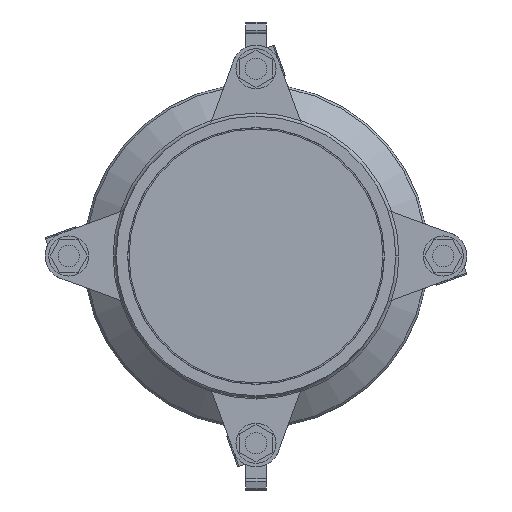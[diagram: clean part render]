
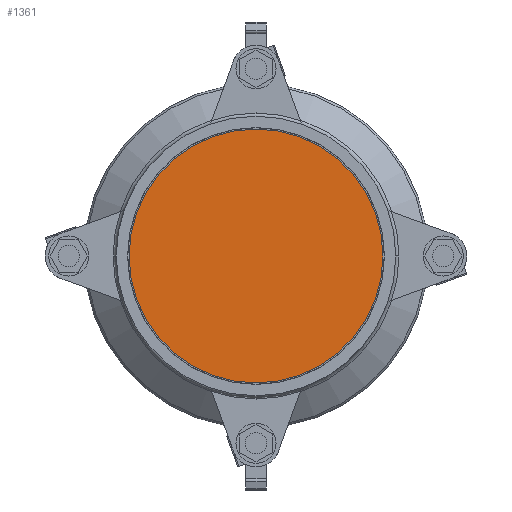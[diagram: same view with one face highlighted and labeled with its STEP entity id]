
A CAD part, left-side view. The second image highlights one B-rep face of the part: STEP entity #1361.
In plain terms, the highlighted planar face has unit normal (-1, 0, 0).
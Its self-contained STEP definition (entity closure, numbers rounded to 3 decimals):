
#1361=ADVANCED_FACE('',(#2762),#2763,.T.);
#2762=FACE_OUTER_BOUND('',#4664,.T.);
#2763=PLANE('',#4665);
#4664=EDGE_LOOP('',(#6726,#6727));
#4665=AXIS2_PLACEMENT_3D('',#6728,#6729,#6730);
#6726=ORIENTED_EDGE('',*,*,#10052,.T.);
#6727=ORIENTED_EDGE('',*,*,#10478,.T.);
#6728=CARTESIAN_POINT('',(21.5,0.0,0.0));
#6729=DIRECTION('',(-1.0,0.0,0.));
#6730=DIRECTION('',(0.,0.0,1.0));
#10052=EDGE_CURVE('',#11693,#11698,#11700,.T.);
#10478=EDGE_CURVE('',#11698,#11693,#12417,.T.);
#11693=VERTEX_POINT('',#14036);
#11698=VERTEX_POINT('',#14042);
#11700=CIRCLE('',#14045,105.0);
#12417=CIRCLE('',#14967,105.0);
#14036=CARTESIAN_POINT('',(21.5,0.0,-105.0));
#14042=CARTESIAN_POINT('',(21.5,0.,105.0));
#14045=AXIS2_PLACEMENT_3D('',#17001,#17002,#17003);
#14967=AXIS2_PLACEMENT_3D('',#17578,#17579,#17580);
#17001=CARTESIAN_POINT('',(21.5,0.0,0.0));
#17002=DIRECTION('',(-1.0,0.0,0.));
#17003=DIRECTION('',(0.,0.0,-1.0));
#17578=CARTESIAN_POINT('',(21.5,0.0,0.0));
#17579=DIRECTION('',(-1.0,0.0,0.));
#17580=DIRECTION('',(0.,0.0,-1.0));
